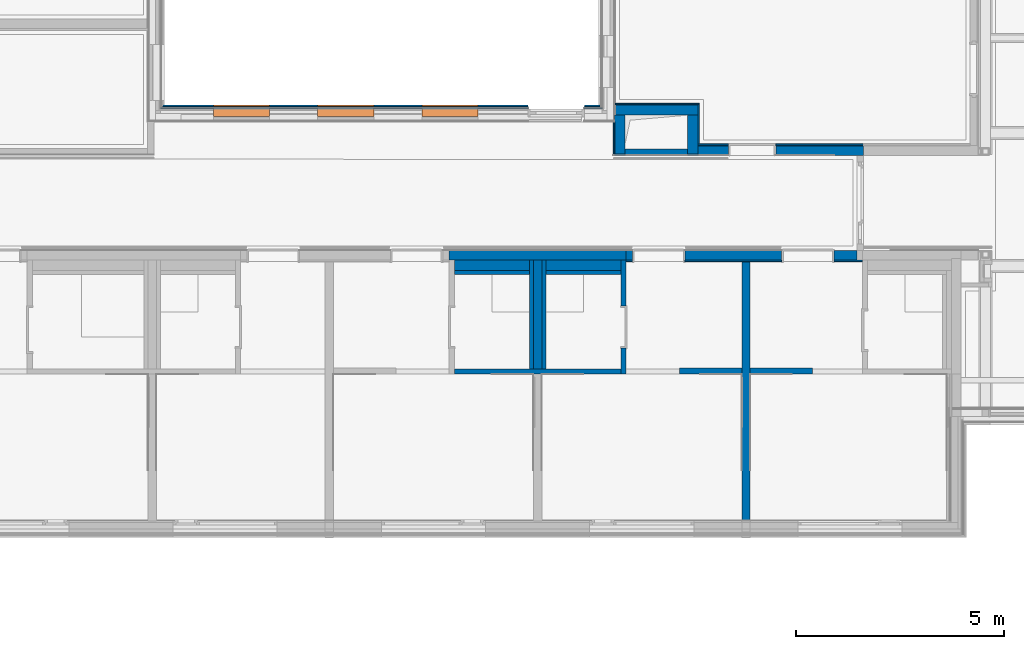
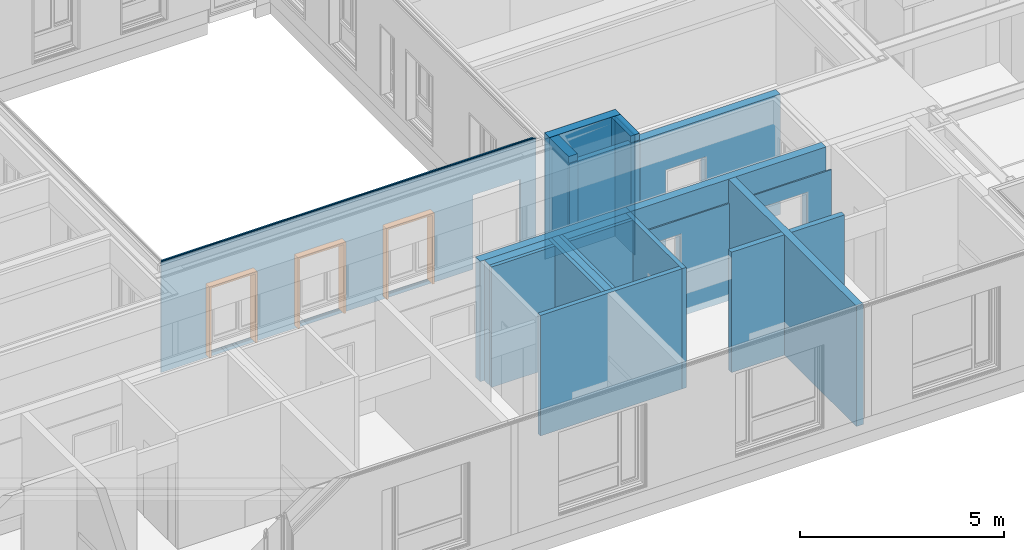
# One storey, part 13 of 207: 29 walls, 3 proxies, 19 openings.
"""IFC4 building model written with IfcOpenShell, lengths in metres."""

from ifc_helpers import new_model, entity, si_unit, converted_unit, derived_unit, frame, frame_2d, origin, origin_with_axes, place, context, subcontext, project, spatial, polyline, rectangle, outline, extrude, faceted_brep, material, element, fill, save


model = new_model("IFC4")

# Units and contexts
model_context = context("Model", 3, precision=1e-05, world=origin())
body_context = subcontext(model_context, "Body", "Model", "MODEL_VIEW")
ifc_project = project(units=[si_unit("LENGTHUNIT", "METRE"), si_unit("AREAUNIT", "SQUARE_METRE"), si_unit("VOLUMEUNIT", "CUBIC_METRE"), si_unit("MASSUNIT", "GRAM", prefix="KILO"), converted_unit("PLANEANGLEUNIT", "DEGREE", entity("IfcPlaneAngleMeasure", 0.0174532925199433), si_unit("PLANEANGLEUNIT", "RADIAN"), dimensions=[0, 0, 0, 0, 0, 0, 0]), derived_unit("THERMALTRANSMITTANCEUNIT", [(si_unit("POWERUNIT", "WATT"), 1), (si_unit("THERMODYNAMICTEMPERATUREUNIT", "KELVIN"), -1), (si_unit("LENGTHUNIT", "METRE"), -2)]), derived_unit("VOLUMETRICFLOWRATEUNIT", [(si_unit("LENGTHUNIT", "METRE"), 3), (converted_unit("TIMEUNIT", "hour", entity("IfcTimeMeasure", 3600.0), si_unit("TIMEUNIT", "SECOND"), dimensions=[0, 0, 1, 0, 0, 0, 0]), -1), (si_unit("LENGTHUNIT", "METRE"), -1)])], contexts=[model_context])

# Site, building, storey
site_placement = place(None, origin())
site = spatial("IfcSite", under=ifc_project, at=site_placement, Name="Psychiatrie Neubau Wunstorf", CompositionType="ELEMENT")
building_placement = place(site_placement, origin())
building = spatial("IfcBuilding", under=site, at=building_placement, Name="Neubau H2 Stationsgebäude", CompositionType="ELEMENT")
storey_placement = place(building_placement, frame((0.0, 0.0, -0.2)))
storey = spatial("IfcBuildingStorey", under=building, at=storey_placement, Name="H2 Ebene 0", CompositionType="ELEMENT", Elevation=-0.2)

# Wall, openings
ifc_material_1 = material(Name="WA-KL")
wall_1_placement = place(storey_placement, frame((15.951, 7.726, 0.5)))
wall_1 = element("IfcWall", 1, at=wall_1_placement, inside=storey, material=ifc_material_1, context=body_context, shape_type="SweptSolid", body=[
    extrude(rectangle(XDim=10.598, YDim=0.024, at=frame_2d((5.29899999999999, 0.012), x_axis=(1.0, 0.0))), origin_with_axes(), (0.0, 0.0, 1.0), 3.3),
])
opening_1_placement = place(wall_1_placement, frame((7.61916867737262, 0.024, 0.1), z_axis=(0.0, -1.0, 0.0), x_axis=(0.0, 0.0, 1.0)))
element("IfcOpeningElement", 2, at=opening_1_placement, cuts=wall_1, Name="Fensteröffnung", ObjectType="Opening", context=body_context, shape_type="SweptSolid", body=[
    extrude(outline(polyline([(2.12, 1.35), (2.12, 0.0), (0.0, 0.0), (0.0, 1.35), (2.12, 1.35)])), origin_with_axes(), (0.0, 0.0, 1.0), 0.024),
])
opening_2_placement = place(wall_1_placement, frame((5.11916867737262, 0.024, 0.1), z_axis=(0.0, -1.0, 0.0), x_axis=(0.0, 0.0, 1.0)))
element("IfcOpeningElement", 3, at=opening_2_placement, cuts=wall_1, Name="Fensteröffnung", ObjectType="Opening", context=body_context, shape_type="SweptSolid", body=[
    extrude(outline(polyline([(2.12, 1.35), (2.12, 0.0), (0.0, 0.0), (0.0, 1.35), (2.12, 1.35)])), origin_with_axes(), (0.0, 0.0, 1.0), 0.024),
])
opening_3_placement = place(wall_1_placement, frame((2.61916867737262, 0.024, 0.1), z_axis=(0.0, -1.0, 0.0), x_axis=(0.0, 0.0, 1.0)))
element("IfcOpeningElement", 4, at=opening_3_placement, cuts=wall_1, Name="Fensteröffnung", ObjectType="Opening", context=body_context, shape_type="SweptSolid", body=[
    extrude(outline(polyline([(2.12, 1.35), (2.12, 0.0), (0.0, 0.0), (0.0, 1.35), (2.12, 1.35)])), origin_with_axes(), (0.0, 0.0, 1.0), 0.024),
])
opening_4_placement = place(wall_1_placement, frame((10.1691686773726, 0.024, -0.5), z_axis=(0.0, -1.0, 0.0), x_axis=(0.0, 0.0, 1.0)))
element("IfcOpeningElement", 5, at=opening_4_placement, cuts=wall_1, Name="Türöffnung", ObjectType="Opening", context=body_context, shape_type="SweptSolid", body=[
    extrude(outline(polyline([(2.72, 1.35), (2.72, 0.0), (0.0, 0.0), (0.0, 1.35), (2.72, 1.35)])), origin_with_axes(), (0.0, 0.0, 1.0), 0.024),
])

ifc_material_2 = material(Name="WA-TL")
wall_2_placement = place(storey_placement, frame((15.975, 7.75, 0.5)))
wall_2 = element("IfcWall", 6, at=wall_2_placement, inside=storey, material=ifc_material_2, context=body_context, shape_type="SweptSolid", body=[
    extrude(rectangle(XDim=10.55, YDim=0.024, at=frame_2d((5.27499999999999, 0.012), x_axis=(1.0, 0.0))), origin_with_axes(), (0.0, 0.0, 1.0), 3.3),
])
opening_5_placement = place(wall_2_placement, frame((7.59516867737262, 0.024, 0.1), z_axis=(0.0, -1.0, 0.0), x_axis=(0.0, 0.0, 1.0)))
element("IfcOpeningElement", 7, at=opening_5_placement, cuts=wall_2, Name="Fensteröffnung", ObjectType="Opening", context=body_context, shape_type="SweptSolid", body=[
    extrude(outline(polyline([(2.12, 1.35), (2.12, 0.0), (0.0, 0.0), (0.0, 1.35), (2.12, 1.35)])), origin_with_axes(), (0.0, 0.0, 1.0), 0.024),
])
opening_6_placement = place(wall_2_placement, frame((5.09516867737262, 0.024, 0.1), z_axis=(0.0, -1.0, 0.0), x_axis=(0.0, 0.0, 1.0)))
element("IfcOpeningElement", 8, at=opening_6_placement, cuts=wall_2, Name="Fensteröffnung", ObjectType="Opening", context=body_context, shape_type="SweptSolid", body=[
    extrude(outline(polyline([(2.12, 1.35), (2.12, 0.0), (0.0, 0.0), (0.0, 1.35), (2.12, 1.35)])), origin_with_axes(), (0.0, 0.0, 1.0), 0.024),
])
opening_7_placement = place(wall_2_placement, frame((2.59516867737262, 0.024, 0.1), z_axis=(0.0, -1.0, 0.0), x_axis=(0.0, 0.0, 1.0)))
element("IfcOpeningElement", 9, at=opening_7_placement, cuts=wall_2, Name="Fensteröffnung", ObjectType="Opening", context=body_context, shape_type="SweptSolid", body=[
    extrude(outline(polyline([(2.12, 1.35), (2.12, 0.0), (0.0, 0.0), (0.0, 1.35), (2.12, 1.35)])), origin_with_axes(), (0.0, 0.0, 1.0), 0.024),
])
opening_8_placement = place(wall_2_placement, frame((10.1451686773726, 0.024, -0.5), z_axis=(0.0, -1.0, 0.0), x_axis=(0.0, 0.0, 1.0)))
element("IfcOpeningElement", 10, at=opening_8_placement, cuts=wall_2, Name="Türöffnung", ObjectType="Opening", context=body_context, shape_type="SweptSolid", body=[
    extrude(outline(polyline([(2.72, 1.35), (2.72, 0.0), (0.0, 0.0), (0.0, 1.35), (2.72, 1.35)])), origin_with_axes(), (0.0, 0.0, 1.0), 0.024),
])

# Wall, openings, proxies
ifc_material_3 = material(Name="WA-HS")
wall_3_placement = place(storey_placement, frame((15.999, 7.774, 0.5)))
wall_3 = element("IfcWall", 11, at=wall_3_placement, inside=storey, material=ifc_material_3, context=body_context, shape_type="SweptSolid", body=[
    extrude(rectangle(XDim=10.502, YDim=0.042, at=frame_2d((5.25099999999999, 0.021), x_axis=(1.0, 0.0))), origin_with_axes(), (0.0, 0.0, 1.0), 3.3),
])
opening_9_placement = place(wall_3_placement, frame((7.57116867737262, 0.042, 0.1), z_axis=(0.0, -1.0, 0.0), x_axis=(0.0, 0.0, 1.0)))
opening_9 = element("IfcOpeningElement", 12, at=opening_9_placement, cuts=wall_3, Name="Fensteröffnung", ObjectType="Opening", context=body_context, shape_type="SweptSolid", body=[
    extrude(outline(polyline([(2.12, 1.35), (2.12, 0.0), (0.0, 0.0), (0.0, 1.35), (2.12, 1.35)])), origin_with_axes(), (0.0, 0.0, 1.0), 0.042),
])
opening_10_placement = place(wall_3_placement, frame((5.07116867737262, 0.042, 0.1), z_axis=(0.0, -1.0, 0.0), x_axis=(0.0, 0.0, 1.0)))
opening_10 = element("IfcOpeningElement", 13, at=opening_10_placement, cuts=wall_3, Name="Fensteröffnung", ObjectType="Opening", context=body_context, shape_type="SweptSolid", body=[
    extrude(outline(polyline([(2.12, 1.35), (2.12, 0.0), (0.0, 0.0), (0.0, 1.35), (2.12, 1.35)])), origin_with_axes(), (0.0, 0.0, 1.0), 0.042),
])
opening_11_placement = place(wall_3_placement, frame((2.57116867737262, 0.042, 0.1), z_axis=(0.0, -1.0, 0.0), x_axis=(0.0, 0.0, 1.0)))
opening_11 = element("IfcOpeningElement", 14, at=opening_11_placement, cuts=wall_3, Name="Fensteröffnung", ObjectType="Opening", context=body_context, shape_type="SweptSolid", body=[
    extrude(outline(polyline([(2.12, 1.35), (2.12, 0.0), (0.0, 0.0), (0.0, 1.35), (2.12, 1.35)])), origin_with_axes(), (0.0, 0.0, 1.0), 0.042),
])
opening_12_placement = place(wall_3_placement, frame((10.1211686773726, 0.042, -0.5), z_axis=(0.0, -1.0, 0.0), x_axis=(0.0, 0.0, 1.0)))
element("IfcOpeningElement", 15, at=opening_12_placement, cuts=wall_3, Name="Türöffnung", ObjectType="Opening", context=body_context, shape_type="SweptSolid", body=[
    extrude(outline(polyline([(2.72, 1.35), (2.72, 0.0), (0.0, 0.0), (0.0, 1.35), (2.72, 1.35)])), origin_with_axes(), (0.0, 0.0, 1.0), 0.042),
])
ifc_material_4 = material(Name="WA-HS")
proxy_1_placement = place(opening_9_placement, frame((0.0, 1.35, 0.275)))
proxy_1 = element("IfcBuildingElementProxy", 16, at=proxy_1_placement, inside=storey, material=ifc_material_4, context=body_context, shape_type="Brep", body=[
    faceted_brep([(0.0, -1.35, -0.275), (0.0, -1.35, 0.0), (2.12, -1.35, 0.0), (2.12, -1.35, -0.275), (0.0, -1.3, 0.0), (0.0, -1.3, -0.275), (2.07, -1.3, -0.275), (2.07, -1.3, 0.0), (2.12, 0.0, 0.0), (2.12, 0.0, -0.275), (0.0, 0.0, -0.275), (0.0, -0.05, -0.275), (2.07, -0.05, -0.275), (2.07, -0.05, 0.0), (0.0, -0.05, 0.0), (0.0, 0.0, 0.0)], [[[0, 1, 2, 3]], [[4, 5, 6, 7]], [[0, 5, 4, 1]], [[3, 2, 8, 9]], [[6, 5, 0, 3, 9, 10, 11, 12]], [[13, 14, 15, 8, 2, 1, 4, 7]], [[7, 6, 12, 13]], [[11, 14, 13, 12]], [[15, 10, 9, 8]], [[11, 10, 15, 14]]], orient=[[False], [False], [False], [False], [False], [False], [False], [False], [False], [False]]),
])
fill(opening_9, proxy_1)
ifc_material_5 = material(Name="WA-HS")
proxy_2_placement = place(opening_10_placement, frame((0.0, 1.35, 0.275)))
proxy_2 = element("IfcBuildingElementProxy", 17, at=proxy_2_placement, inside=storey, material=ifc_material_5, context=body_context, shape_type="Brep", body=[
    faceted_brep([(0.0, -1.35, -0.275), (0.0, -1.35, 0.0), (2.12, -1.35, 0.0), (2.12, -1.35, -0.275), (0.0, -1.3, 0.0), (0.0, -1.3, -0.275), (2.07, -1.3, -0.275), (2.07, -1.3, 0.0), (2.12, 0.0, 0.0), (2.12, 0.0, -0.275), (0.0, 0.0, -0.275), (0.0, -0.05, -0.275), (2.07, -0.05, -0.275), (2.07, -0.05, 0.0), (0.0, -0.05, 0.0), (0.0, 0.0, 0.0)], [[[0, 1, 2, 3]], [[4, 5, 6, 7]], [[0, 5, 4, 1]], [[3, 2, 8, 9]], [[6, 5, 0, 3, 9, 10, 11, 12]], [[13, 14, 15, 8, 2, 1, 4, 7]], [[7, 6, 12, 13]], [[11, 14, 13, 12]], [[15, 10, 9, 8]], [[11, 10, 15, 14]]], orient=[[False], [False], [False], [False], [False], [False], [False], [False], [False], [False]]),
])
fill(opening_10, proxy_2)
ifc_material_6 = material(Name="WA-HS")
proxy_3_placement = place(opening_11_placement, frame((0.0, 1.35, 0.275)))
proxy_3 = element("IfcBuildingElementProxy", 18, at=proxy_3_placement, inside=storey, material=ifc_material_6, context=body_context, shape_type="Brep", body=[
    faceted_brep([(0.0, -1.35, -0.275), (0.0, -1.35, 0.0), (2.12, -1.35, 0.0), (2.12, -1.35, -0.275), (0.0, -1.3, 0.0), (0.0, -1.3, -0.275), (2.07, -1.3, -0.275), (2.07, -1.3, 0.0), (2.12, 0.0, 0.0), (2.12, 0.0, -0.275), (0.0, 0.0, -0.275), (0.0, -0.05, -0.275), (2.07, -0.05, -0.275), (2.07, -0.05, 0.0), (0.0, -0.05, 0.0), (0.0, 0.0, 0.0)], [[[0, 1, 2, 3]], [[4, 5, 6, 7]], [[0, 5, 4, 1]], [[3, 2, 8, 9]], [[6, 5, 0, 3, 9, 10, 11, 12]], [[13, 14, 15, 8, 2, 1, 4, 7]], [[7, 6, 12, 13]], [[11, 14, 13, 12]], [[15, 10, 9, 8]], [[11, 10, 15, 14]]], orient=[[False], [False], [False], [False], [False], [False], [False], [False], [False], [False]]),
])
fill(opening_11, proxy_3)

# Walls
ifc_material_7 = material(Name="WI-LB")
wall_4_placement = place(storey_placement, frame((27.0, 1.48374963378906, 0.0), z_axis=(0.0, 0.0, 1.0), x_axis=(-1.0, 0.0, 0.0)))
element("IfcWall", 19, at=wall_4_placement, inside=storey, material=ifc_material_7, context=body_context, shape_type="SweptSolid", body=[
    extrude(rectangle(XDim=4.0, YDim=0.125, at=frame_2d((2.0, 0.0625), x_axis=(1.0, 0.0))), origin_with_axes(), (0.0, 0.0, 1.0), 3.6),
])
ifc_material_8 = material(Name="WI-STB")
wall_5_placement = place(storey_placement, frame((27.1, 6.642, 0.0), z_axis=(0.0, 0.0, 1.0), x_axis=(0.0, 1.0, 0.0)))
element("IfcWall", 20, at=wall_5_placement, inside=storey, material=ifc_material_8, context=body_context, shape_type="SweptSolid", body=[
    extrude(rectangle(XDim=0.933, YDim=0.25, at=frame_2d((0.4665, 0.125), x_axis=(1.0, 0.0))), origin_with_axes(), (0.0, 0.0, 1.0), 3.8),
])

# Wall, opening
ifc_material_9 = material(Name="WI-HW 60")
wall_6_placement = place(storey_placement, frame((28.85, 6.612, 0.0)))
wall_6 = element("IfcWall", 21, at=wall_6_placement, inside=storey, material=ifc_material_9, context=body_context, shape_type="SweptSolid", body=[
    extrude(rectangle(XDim=3.96849999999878, YDim=0.232, at=frame_2d((1.98424999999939, 0.116), x_axis=(1.0, 0.0))), origin_with_axes(), (0.0, 0.0, 1.0), 3.6),
])
opening_13_placement = place(wall_6_placement, frame((1.86499999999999, 0.231999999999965, 0.0), z_axis=(0.0, -1.0, 0.0), x_axis=(0.0, 0.0, 1.0)))
element("IfcOpeningElement", 22, at=opening_13_placement, cuts=wall_6, Name="Türöffnung", ObjectType="Opening", context=body_context, shape_type="SweptSolid", body=[
    extrude(outline(polyline([(2.46, 1.135), (2.46, 0.0), (0.0, 0.0), (0.0, 1.135), (2.46, 1.135)])), origin_with_axes(), (0.0, 0.0, 1.0), 0.232),
])

ifc_material_10 = material(Name="WI-LB")
wall_7_placement = place(storey_placement, frame((28.85, 6.844, 0.0)))
wall_7 = element("IfcWall", 23, at=wall_7_placement, inside=storey, material=ifc_material_10, context=body_context, shape_type="SweptSolid", body=[
    extrude(rectangle(XDim=3.96849999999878, YDim=0.04, at=frame_2d((1.98424999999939, 0.02), x_axis=(1.0, 0.0))), origin_with_axes(), (0.0, 0.0, 1.0), 2.95),
])
opening_14_placement = place(wall_7_placement, frame((1.86499999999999, 0.0399999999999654, 0.0), z_axis=(0.0, -1.0, 0.0), x_axis=(0.0, 0.0, 1.0)))
element("IfcOpeningElement", 24, at=opening_14_placement, cuts=wall_7, Name="Türöffnung", ObjectType="Opening", context=body_context, shape_type="SweptSolid", body=[
    extrude(outline(polyline([(2.46, 1.135), (2.46, 0.0), (0.0, 0.0), (0.0, 1.135), (2.46, 1.135)])), origin_with_axes(), (0.0, 0.0, 1.0), 0.04),
])

# Walls
ifc_material_11 = material(Name="WI-STB")
wall_8_placement = place(storey_placement, frame((28.85, 7.825, 0.0), z_axis=(0.0, 0.0, 1.0), x_axis=(-1.0, 0.0, 0.0)))
element("IfcWall", 25, at=wall_8_placement, inside=storey, material=ifc_material_11, context=body_context, shape_type="SweptSolid", body=[
    extrude(rectangle(XDim=2.0, YDim=0.25, at=frame_2d((1.0, 0.125), x_axis=(1.0, 0.0))), origin_with_axes(), (0.0, 0.0, 1.0), 3.8),
])
ifc_material_12 = material(Name="WI-STB")
wall_9_placement = place(storey_placement, frame((28.85, 6.642, 0.0), z_axis=(0.0, 0.0, 1.0), x_axis=(0.0, 1.0, 0.0)))
element("IfcWall", 26, at=wall_9_placement, inside=storey, material=ifc_material_12, context=body_context, shape_type="SweptSolid", body=[
    extrude(rectangle(XDim=0.933, YDim=0.25, at=frame_2d((0.4665, 0.125), x_axis=(1.0, 0.0))), origin_with_axes(), (0.0, 0.0, 1.0), 3.8),
])
ifc_material_13 = material(Name="WI-LB")
wall_10_placement = place(storey_placement, frame((29.9, 1.5087496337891, 0.0), z_axis=(0.0, 0.0, 1.0), x_axis=(-1.0, 0.0, 0.0)))
element("IfcWall", 27, at=wall_10_placement, inside=storey, material=ifc_material_13, context=body_context, shape_type="SweptSolid", body=[
    extrude(rectangle(XDim=1.5, YDim=0.15, at=frame_2d((0.75, 0.075), x_axis=(1.0, 0.0))), origin_with_axes(), (0.0, 0.0, 1.0), 3.6),
])
ifc_material_14 = material(Name="WI-LB")
wall_11_placement = place(storey_placement, frame((31.6, 1.5087496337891, 0.0), z_axis=(0.0, 0.0, 1.0), x_axis=(-1.0, 0.0, 0.0)))
element("IfcWall", 28, at=wall_11_placement, inside=storey, material=ifc_material_14, context=body_context, shape_type="SweptSolid", body=[
    extrude(rectangle(XDim=1.5, YDim=0.15, at=frame_2d((0.75, 0.075), x_axis=(1.0, 0.0))), origin_with_axes(), (0.0, 0.0, 1.0), 3.6),
])
ifc_material_15 = material(Name="WI-HW 60")
wall_12_placement = place(storey_placement, frame((27.125, 4.33074963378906, 0.0), z_axis=(0.0, 0.0, 1.0), x_axis=(-1.0, 0.0, 0.0)))
element("IfcWall", 29, at=wall_12_placement, inside=storey, material=ifc_material_15, context=body_context, shape_type="SweptSolid", body=[
    extrude(rectangle(XDim=4.25, YDim=0.232000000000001, at=frame_2d((2.125, 0.116), x_axis=(1.0, 0.0))), origin_with_axes(), (0.0, 0.0, 1.0), 3.6),
])

# Wall, opening
ifc_material_16 = material(Name="WI-LB")
wall_13_placement = place(storey_placement, frame((27.0, 4.09874963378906, 0.0), z_axis=(0.0, 0.0, 1.0), x_axis=(0.0, -1.0, 0.0)))
wall_13 = element("IfcWall", 30, at=wall_13_placement, inside=storey, material=ifc_material_16, context=body_context, shape_type="SweptSolid", body=[
    extrude(rectangle(XDim=2.74, YDim=0.125, at=frame_2d((1.37, 0.0625), x_axis=(1.0, 0.0))), origin_with_axes(), (0.0, 0.0, 1.0), 3.6),
])
opening_15_placement = place(wall_13_placement, frame((1.105, 0.0, 0.0), z_axis=(0.0, 1.0, 0.0), x_axis=(0.0, 0.0, 1.0)))
element("IfcOpeningElement", 31, at=opening_15_placement, cuts=wall_13, Name="Türöffnung", ObjectType="Opening", context=body_context, shape_type="SweptSolid", body=[
    extrude(outline(polyline([(2.46, 1.01), (2.46, 0.0), (0.0, 0.0), (0.0, 1.01), (2.46, 1.01)])), origin_with_axes(), (0.0, 0.0, 1.0), 0.125),
])

# Walls
ifc_material_17 = material(Name="WI-LB")
wall_14_placement = place(storey_placement, frame((28.88, 7.855, 0.0), z_axis=(0.0, 0.0, 1.0), x_axis=(-1.0, 0.0, 0.0)))
element("IfcWall", 32, at=wall_14_placement, inside=storey, material=ifc_material_17, context=body_context, shape_type="SweptSolid", body=[
    extrude(rectangle(XDim=2.019, YDim=0.0299996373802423, at=frame_2d((1.0095, 0.0149998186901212), x_axis=(1.0, 0.0))), origin_with_axes(), (0.0, 0.0, 1.0), 3.6),
])
ifc_material_18 = material(Name="WI-LB")
wall_15_placement = place(storey_placement, frame((26.8200003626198, 7.414, 0.0), z_axis=(0.0, 0.0, 1.0), x_axis=(0.0, -1.0, 0.0)))
element("IfcWall", 33, at=wall_15_placement, inside=storey, material=ifc_material_18, context=body_context, shape_type="SweptSolid", body=[
    extrude(rectangle(XDim=0.801999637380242, YDim=0.0299996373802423, at=frame_2d((0.400999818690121, 0.0149998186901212), x_axis=(1.0, 0.0))), origin_with_axes(), (0.0, 0.0, 1.0), 3.6),
])
ifc_material_19 = material(Name="WI-LB")
wall_16_placement = place(storey_placement, frame((28.88, 6.884, 0.0), z_axis=(0.0, 0.0, 1.0), x_axis=(0.0, 1.0, 0.0)))
element("IfcWall", 34, at=wall_16_placement, inside=storey, material=ifc_material_19, context=body_context, shape_type="SweptSolid", body=[
    extrude(rectangle(XDim=0.941, YDim=0.0299996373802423, at=frame_2d((0.4705, 0.0149998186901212), x_axis=(1.0, 0.0))), origin_with_axes(), (0.0, 0.0, 1.0), 3.6),
])
ifc_material_20 = material(Name="WI-LB")
wall_17_placement = place(storey_placement, frame((28.85, 6.642, 0.0), z_axis=(0.0, 0.0, 1.0), x_axis=(-1.0, 0.0, 0.0)))
element("IfcWall", 35, at=wall_17_placement, inside=storey, material=ifc_material_20, context=body_context, shape_type="SweptSolid", body=[
    extrude(rectangle(XDim=0.25, YDim=0.0299996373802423, at=frame_2d((0.125, 0.0149998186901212), x_axis=(1.0, 0.0))), origin_with_axes(), (0.0, 0.0, 1.0), 3.6),
])
ifc_material_21 = material(Name="WI-LB")
wall_18_placement = place(storey_placement, frame((27.1, 6.642, 0.0), z_axis=(0.0, 0.0, 1.0), x_axis=(-1.0, 0.0, 0.0)))
element("IfcWall", 36, at=wall_18_placement, inside=storey, material=ifc_material_21, context=body_context, shape_type="SweptSolid", body=[
    extrude(rectangle(XDim=0.25, YDim=0.0299996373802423, at=frame_2d((0.125, 0.0149998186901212), x_axis=(1.0, 0.0))), origin_with_axes(), (0.0, 0.0, 1.0), 3.6),
])

# Wall, openings
ifc_material_22 = material(Name="WI-HW 60")
wall_19_placement = place(storey_placement, frame((32.6634999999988, 4.33074963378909, 0.0), z_axis=(0.0, 0.0, 1.0), x_axis=(-1.0, -8.21065903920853e-16, 0.0)))
wall_19 = element("IfcWall", 37, at=wall_19_placement, inside=storey, material=ifc_material_22, context=body_context, shape_type="SweptSolid", body=[
    extrude(rectangle(XDim=5.53849999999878, YDim=0.232000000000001, at=frame_2d((2.76924999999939, 0.116), x_axis=(1.0, 0.0))), origin_with_axes(), (0.0, 0.0, 1.0), 3.6),
])
opening_16_placement = place(wall_19_placement, frame((0.548499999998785, 0.0, 0.0), z_axis=(9.80058945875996e-16, 1.0, 0.0), x_axis=(0.0, 0.0, 1.0)))
element("IfcOpeningElement", 38, at=opening_16_placement, cuts=wall_19, Name="Türöffnung", ObjectType="Opening", context=body_context, shape_type="SweptSolid", body=[
    extrude(outline(polyline([(2.46, 1.26), (2.46, 0.0), (0.0, 0.0), (0.0, 1.26), (2.46, 1.26)])), origin_with_axes(), (0.0, 0.0, 1.0), 0.232000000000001),
])
opening_17_placement = place(wall_19_placement, frame((4.12849999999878, 0.0, 0.0), z_axis=(0.0, 1.0, 0.0), x_axis=(0.0, 0.0, 1.0)))
element("IfcOpeningElement", 39, at=opening_17_placement, cuts=wall_19, Name="Türöffnung", ObjectType="Opening", context=body_context, shape_type="SweptSolid", body=[
    extrude(outline(polyline([(2.46, 1.26), (2.46, 0.0), (0.0, 0.0), (0.0, 1.26), (2.46, 1.26)])), origin_with_axes(), (0.0, 0.0, 1.0), 0.232000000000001),
])

ifc_material_23 = material(Name="WI-LB")
wall_20_placement = place(storey_placement, frame((32.7925, 4.09874963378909, 0.0), z_axis=(0.0, 0.0, 1.0), x_axis=(-1.0, -8.02377328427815e-16, 0.0)))
wall_20 = element("IfcWall", 40, at=wall_20_placement, inside=storey, material=ifc_material_23, context=body_context, shape_type="SweptSolid", body=[
    extrude(rectangle(XDim=5.6675, YDim=0.0394999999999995, at=frame_2d((2.83375, 0.0197499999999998), x_axis=(1.0, 0.0))), origin_with_axes(), (0.0, 0.0, 1.0), 2.9),
])
opening_18_placement = place(wall_20_placement, frame((4.2575, 0.0, 0.0), z_axis=(0.0, 1.0, 0.0), x_axis=(0.0, 0.0, 1.0)))
element("IfcOpeningElement", 41, at=opening_18_placement, cuts=wall_20, Name="Türöffnung", ObjectType="Opening", context=body_context, shape_type="SweptSolid", body=[
    extrude(outline(polyline([(2.46, 1.26), (2.46, 0.0), (0.0, 0.0), (0.0, 1.26), (2.46, 1.26)])), origin_with_axes(), (0.0, 0.0, 1.0), 0.0394999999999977),
])
opening_19_placement = place(wall_20_placement, frame((0.677500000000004, 0.0, 0.0), z_axis=(0.0, 1.0, 0.0), x_axis=(0.0, 0.0, 1.0)))
element("IfcOpeningElement", 42, at=opening_19_placement, cuts=wall_20, Name="Türöffnung", ObjectType="Opening", context=body_context, shape_type="SweptSolid", body=[
    extrude(outline(polyline([(2.46, 1.26), (2.46, 0.0), (0.0, 0.0), (0.0, 1.26), (2.46, 1.26)])), origin_with_axes(), (0.0, 0.0, 1.0), 0.0394999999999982),
])

# Walls
ifc_material_24 = material(Name="WI-LB")
wall_21_placement = place(storey_placement, frame((28.6, 6.762, 0.0), z_axis=(0.0, 0.0, 1.0), x_axis=(-1.0, 0.0, 0.0)))
element("IfcWall", 43, at=wall_21_placement, inside=storey, material=ifc_material_24, context=body_context, shape_type="SweptSolid", body=[
    extrude(rectangle(XDim=1.5, YDim=0.15, at=frame_2d((0.75, 0.075), x_axis=(1.0, 0.0))), origin_with_axes(), (0.0, 0.0, 1.0), 3.6),
])
ifc_material_25 = material(Name="WI-IW")
wall_22_placement = place(storey_placement, frame((23.0, 3.74874963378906, 0.0)))
element("IfcWall", 44, at=wall_22_placement, inside=storey, material=ifc_material_25, context=body_context, shape_type="SweptSolid", body=[
    extrude(rectangle(XDim=1.8, YDim=0.1, at=frame_2d((0.9, 0.05), x_axis=(1.0, 0.0))), origin_with_axes(), (0.0, 0.0, 1.0), 3.6),
])
ifc_material_26 = material(Name="Installationsraum")
wall_23_placement = place(storey_placement, frame((23.0, 3.84874963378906, 0.0)))
element("IfcWall", 45, at=wall_23_placement, inside=storey, material=ifc_material_26, context=body_context, shape_type="SweptSolid", body=[
    extrude(rectangle(XDim=1.8, YDim=0.25, at=frame_2d((0.9, 0.125), x_axis=(1.0, 0.0))), origin_with_axes(), (0.0, 0.0, 1.0), 3.6),
])
ifc_material_27 = material(Name="WI-IW")
wall_24_placement = place(storey_placement, frame((24.8, 4.09874963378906, 0.0), z_axis=(0.0, 0.0, 1.0), x_axis=(0.0, -1.0, 0.0)))
element("IfcWall", 46, at=wall_24_placement, inside=storey, material=ifc_material_27, context=body_context, shape_type="SweptSolid", body=[
    extrude(rectangle(XDim=2.615, YDim=0.1, at=frame_2d((1.3075, 0.05), x_axis=(1.0, 0.0))), origin_with_axes(), (0.0, 0.0, 1.0), 3.6),
])
ifc_material_28 = material(Name="Installationsraum")
wall_25_placement = place(storey_placement, frame((24.9, 4.09874963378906, 0.0), z_axis=(0.0, 0.0, 1.0), x_axis=(0.0, -1.0, 0.0)))
element("IfcWall", 47, at=wall_25_placement, inside=storey, material=ifc_material_28, context=body_context, shape_type="SweptSolid", body=[
    extrude(rectangle(XDim=2.615, YDim=0.2, at=frame_2d((1.3075, 0.1), x_axis=(1.0, 0.0))), origin_with_axes(), (0.0, 0.0, 1.0), 3.6),
])
ifc_material_29 = material(Name="WI-IW")
wall_26_placement = place(storey_placement, frame((25.1, 4.09874963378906, 0.0), z_axis=(0.0, 0.0, 1.0), x_axis=(0.0, -1.0, 0.0)))
element("IfcWall", 48, at=wall_26_placement, inside=storey, material=ifc_material_29, context=body_context, shape_type="SweptSolid", body=[
    extrude(rectangle(XDim=2.615, YDim=0.1, at=frame_2d((1.3075, 0.05), x_axis=(1.0, 0.0))), origin_with_axes(), (0.0, 0.0, 1.0), 3.6),
])
ifc_material_30 = material(Name="WI-IW")
wall_27_placement = place(storey_placement, frame((25.2, 3.74874963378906, 0.0)))
element("IfcWall", 49, at=wall_27_placement, inside=storey, material=ifc_material_30, context=body_context, shape_type="SweptSolid", body=[
    extrude(rectangle(XDim=1.8, YDim=0.1, at=frame_2d((0.9, 0.05), x_axis=(1.0, 0.0))), origin_with_axes(), (0.0, 0.0, 1.0), 3.6),
])
ifc_material_31 = material(Name="Installationsraum")
wall_28_placement = place(storey_placement, frame((25.2, 3.84874963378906, 0.0)))
element("IfcWall", 50, at=wall_28_placement, inside=storey, material=ifc_material_31, context=body_context, shape_type="SweptSolid", body=[
    extrude(rectangle(XDim=1.8, YDim=0.25, at=frame_2d((0.9, 0.125), x_axis=(1.0, 0.0))), origin_with_axes(), (0.0, 0.0, 1.0), 3.6),
])
ifc_material_32 = material(Name="WI-LB")
wall_29_placement = place(storey_placement, frame((29.9, 4.09874963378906, 0.0), z_axis=(0.0, 0.0, 1.0), x_axis=(0.0, -1.0, 0.0)))
element("IfcWall", 51, at=wall_29_placement, inside=storey, material=ifc_material_32, context=body_context, shape_type="SweptSolid", body=[
    extrude(rectangle(XDim=6.26274963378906, YDim=0.2, at=frame_2d((3.13137481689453, 0.1), x_axis=(1.0, 0.0))), origin_with_axes(), (0.0, 0.0, 1.0), 3.6),
])

save(model, "model.ifc")
